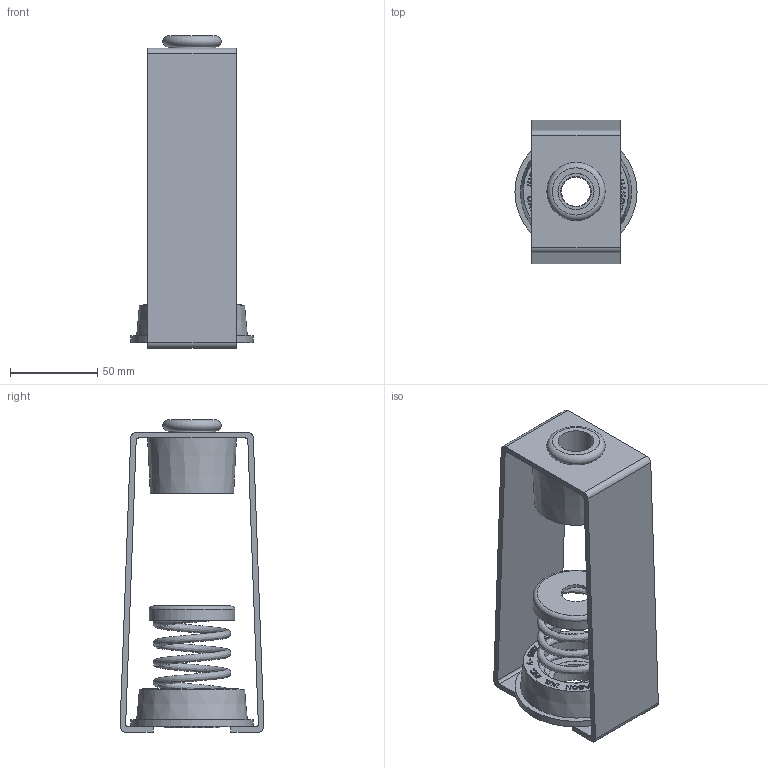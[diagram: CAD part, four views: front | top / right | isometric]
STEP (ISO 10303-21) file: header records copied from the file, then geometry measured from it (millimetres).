
FILE_DESCRIPTION((''),'2;1');
FILE_NAME('C:\2012_Work\Designs\exports\30N\30N-A-95.stp','2013-06-27T12:45:37',('KShiels'),(''),'Autodesk Inventor 2012','Autodesk Inventor 2012','');
FILE_SCHEMA(('AUTOMOTIVE_DESIGN { 1 0 10303 214 1 1 1 1 }'));
Length unit declared in the file: inch
Products named in the file (12): 30N-A-95; A-20478-3 30N-A; A-20478-3A; A-20478-3B; A-20495-7N; A-20495-7A; A-20495-7B; A-3267-6 FOR 0625 DIA ROD; A-8587-2R LDS HANGER CUP A; A-8587-2R LDS CUP A; A-8587-2R WASHER A; A-30-95 SPRING
Assembly tree (11 placements, depth 4):
  30N-A-95
    A-20478-3 30N-A
      A-20478-3A
      A-20478-3B
      A-20495-7N
        A-20495-7A
        A-20495-7B
      A-3267-6 FOR 0625 DIA ROD
      A-8587-2R LDS HANGER CUP A
        A-8587-2R LDS CUP A
        A-8587-2R WASHER A
    A-30-95 SPRING
Bounding box: 69.85 x 82.31 x 178.59 mm (x, y, z)
Volume: 182530.3 mm3; surface area: 103374.2 mm2
Topology: 8 solids, 8 shells, 944 faces, 2462 edges, 1641 vertices
Faces by surface type: plane 639, bspline 273, cylinder 27, torus 3, cone 2
Full cylindrical faces by diameter (mm): 16.669 x1, 17.463 x1, 20.638 x1, 25.4 x1, 26.988 x3, 31.75 x4, 43.656 x1, 44.45 x2, 45.263 x1, 49.058 x1, 53.975 x2, 69.85 x1
Entity records: 32045 total; most frequent: CARTESIAN_POINT 10338, ORIENTED_EDGE 4872, DIRECTION 3340, EDGE_CURVE 2436, VECTOR 1824, LINE 1824, VERTEX_POINT 1639, EDGE_LOOP 1089
